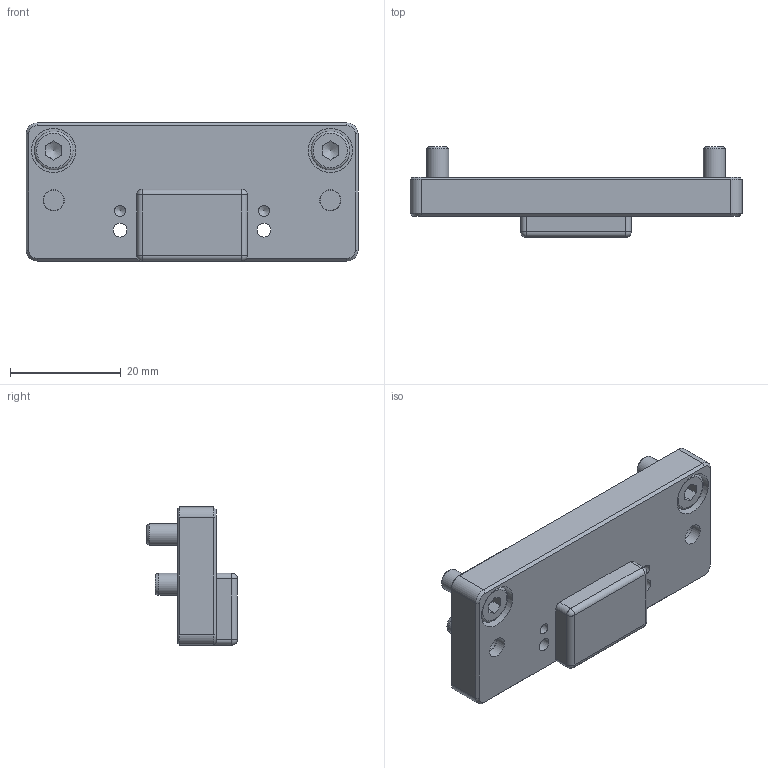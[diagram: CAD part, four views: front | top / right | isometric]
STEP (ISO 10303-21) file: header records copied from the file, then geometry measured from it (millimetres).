
FILE_DESCRIPTION(/* description */ (''),/* implementation_level */ '2;1');
FILE_NAME(/* name */ 'ZG-AP-SEK100-SHS125.stp',/* time_stamp */ '2024-11-13T16:08:44+01:00',/* author */ ('ysplieth'),/* organization */ (''),/* preprocessor_version */ 'ST-DEVELOPER v20',/* originating_system */ 'Autodesk Inventor 2024',/* authorisation */ '');
FILE_SCHEMA (('AUTOMOTIVE_DESIGN { 1 0 10303 214 3 1 1 }'));
Length unit declared in the file: millimetre
Products named in the file (1): Bauteil12
Bounding box: 60 x 16.4 x 25 mm (x, y, z)
Volume: 11283 mm3; surface area: 5352.1 mm2
Topology: 1 solids, 1 shells, 101 faces, 223 edges, 138 vertices
Faces by surface type: plane 45, cylinder 30, cone 18, torus 4, sphere 4
Full cylindrical faces by diameter (mm): 2 x2, 2.5 x2, 3.8 x2, 4 x6, 4.5 x2, 7 x2, 8 x2
Entity records: 2918 total; most frequent: DIRECTION 501, CARTESIAN_POINT 487, ORIENTED_EDGE 438, EDGE_CURVE 219, AXIS2_PLACEMENT_3D 194, VERTEX_POINT 138, EDGE_LOOP 123, LINE 113
